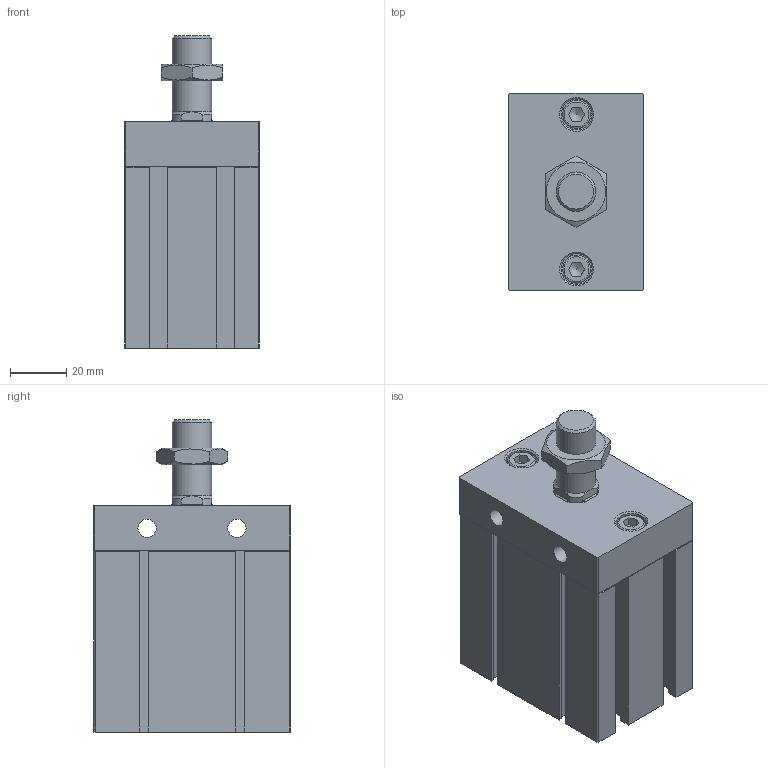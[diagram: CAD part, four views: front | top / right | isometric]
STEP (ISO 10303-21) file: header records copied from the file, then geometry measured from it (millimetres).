
FILE_DESCRIPTION((''),'2;1');
FILE_NAME('I:\3D電子目錄\氣缸\ND\ND\ND40-B\ND40x30-B.stp','2007-07-30T19:18:08',('Administrator'),(''),'Autodesk Inventor 11','Autodesk Inventor 11','');
FILE_SCHEMA(('AUTOMOTIVE_DESIGN { 1 0 10303 214 1 1 1 1 }'));
Length unit declared in the file: millimetre
Products named in the file (4): ND40-B; R 形環 42; ISO 4762 M6 x 20
Assembly tree (4 placements, depth 2):
  ND40-B
    ND40-B
    R 形環 42
    ISO 4762 M6 x 20  x2
Bounding box: 48 x 70.1 x 111 mm (x, y, z)
Volume: 247349.8 mm3; surface area: 44142.3 mm2
Topology: 5 solids, 5 shells, 207 faces, 501 edges, 321 vertices
Faces by surface type: plane 143, cylinder 27, cone 20, bspline 14, torus 3
Full cylindrical faces by diameter (mm): 1.9 x2, 2.2 x2, 6 x2, 6.5 x2, 10 x2, 11 x2, 14 x2, 29 x1, 42 x1, 44.5 x1
Entity records: 5567 total; most frequent: CARTESIAN_POINT 1155, DIRECTION 864, ORIENTED_EDGE 848, EDGE_CURVE 424, VECTOR 306, LINE 306, VERTEX_POINT 296, AXIS2_PLACEMENT_3D 279
